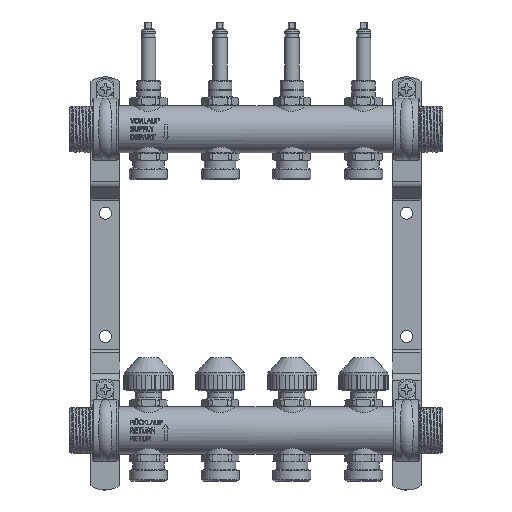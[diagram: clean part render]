
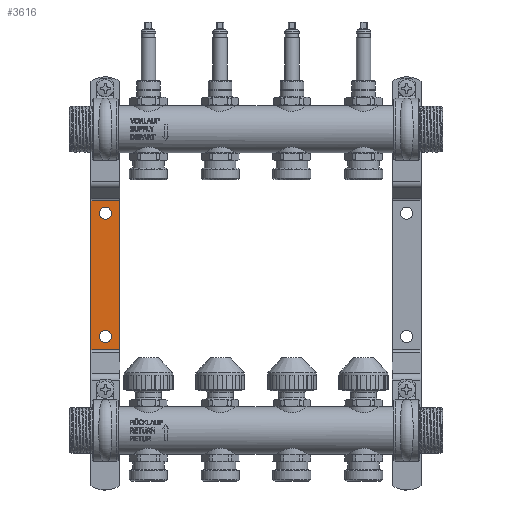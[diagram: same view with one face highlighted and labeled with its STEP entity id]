
A CAD part, top view. The second image highlights one B-rep face of the part: STEP entity #3616.
In plain terms, the highlighted planar face has unit normal (0, 0, 1).
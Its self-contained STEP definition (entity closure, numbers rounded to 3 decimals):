
#3529=CARTESIAN_POINT('',(-15.,-153.73,-35.));
#3530=VERTEX_POINT('',#3529);
#3538=CARTESIAN_POINT('',(-35.,-153.73,-35.));
#3539=VERTEX_POINT('',#3538);
#3540=CARTESIAN_POINT('',(-15.,-153.73,-35.));
#3541=DIRECTION('',(-1.0,0.0,0.0));
#3542=VECTOR('',#3541,20.);
#3543=LINE('',#3540,#3542);
#3544=EDGE_CURVE('',#3530,#3539,#3543,.T.);
#3564=CARTESIAN_POINT('',(-15.,-48.473,-35.));
#3565=DIRECTION('',(0.0,0.0,1.0));
#3566=DIRECTION('',(-1.0,0.0,0.0));
#3567=AXIS2_PLACEMENT_3D('',#3564,#3565,#3566);
#3568=PLANE('',#3567);
#3569=ORIENTED_EDGE('',*,*,#3544,.F.);
#3570=CARTESIAN_POINT('',(-15.,-49.636,-35.));
#3571=VERTEX_POINT('',#3570);
#3572=CARTESIAN_POINT('',(-15.,-49.636,-35.));
#3573=DIRECTION('',(0.0,-1.0,0.0));
#3574=VECTOR('',#3573,104.095);
#3575=LINE('',#3572,#3574);
#3576=EDGE_CURVE('',#3571,#3530,#3575,.T.);
#3577=ORIENTED_EDGE('',*,*,#3576,.F.);
#3578=CARTESIAN_POINT('',(-35.,-49.636,-35.));
#3579=VERTEX_POINT('',#3578);
#3580=CARTESIAN_POINT('',(-35.,-49.636,-35.));
#3581=DIRECTION('',(1.0,0.0,0.0));
#3582=VECTOR('',#3581,20.);
#3583=LINE('',#3580,#3582);
#3584=EDGE_CURVE('',#3579,#3571,#3583,.T.);
#3585=ORIENTED_EDGE('',*,*,#3584,.F.);
#3586=CARTESIAN_POINT('',(-35.,-49.636,-35.));
#3587=DIRECTION('',(0.0,-1.0,0.0));
#3588=VECTOR('',#3587,104.095);
#3589=LINE('',#3586,#3588);
#3590=EDGE_CURVE('',#3579,#3539,#3589,.T.);
#3591=ORIENTED_EDGE('',*,*,#3590,.T.);
#3592=EDGE_LOOP('',(#3569,#3577,#3585,#3591));
#3593=FACE_OUTER_BOUND('',#3592,.T.);
#3594=CARTESIAN_POINT('',(-25.,-140.25,-35.));
#3595=VERTEX_POINT('',#3594);
#3596=CARTESIAN_POINT('',(-25.,-144.5,-35.));
#3597=DIRECTION('',(0.0,0.0,-1.0));
#3598=DIRECTION('',(0.0,-1.0,0.0));
#3599=AXIS2_PLACEMENT_3D('',#3596,#3597,#3598);
#3600=CIRCLE('',#3599,4.25);
#3601=EDGE_CURVE('',#3595,#3595,#3600,.T.);
#3602=ORIENTED_EDGE('',*,*,#3601,.T.);
#3603=EDGE_LOOP('',(#3602));
#3604=FACE_BOUND('',#3603,.T.);
#3605=CARTESIAN_POINT('',(-25.,-54.25,-35.));
#3606=VERTEX_POINT('',#3605);
#3607=CARTESIAN_POINT('',(-25.,-58.5,-35.));
#3608=DIRECTION('',(0.0,0.0,-1.0));
#3609=DIRECTION('',(0.0,-1.0,0.0));
#3610=AXIS2_PLACEMENT_3D('',#3607,#3608,#3609);
#3611=CIRCLE('',#3610,4.25);
#3612=EDGE_CURVE('',#3606,#3606,#3611,.T.);
#3613=ORIENTED_EDGE('',*,*,#3612,.T.);
#3614=EDGE_LOOP('',(#3613));
#3615=FACE_BOUND('',#3614,.T.);
#3616=ADVANCED_FACE('',(#3593,#3604,#3615),#3568,.T.);
